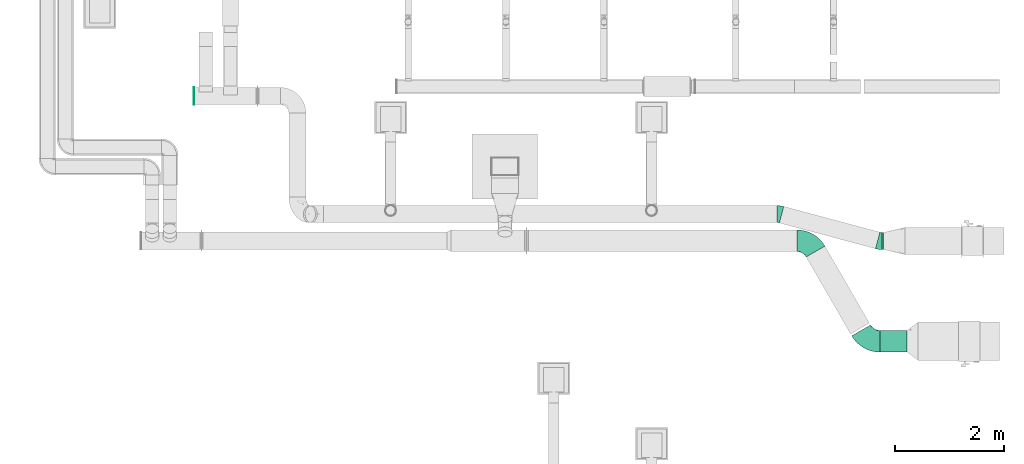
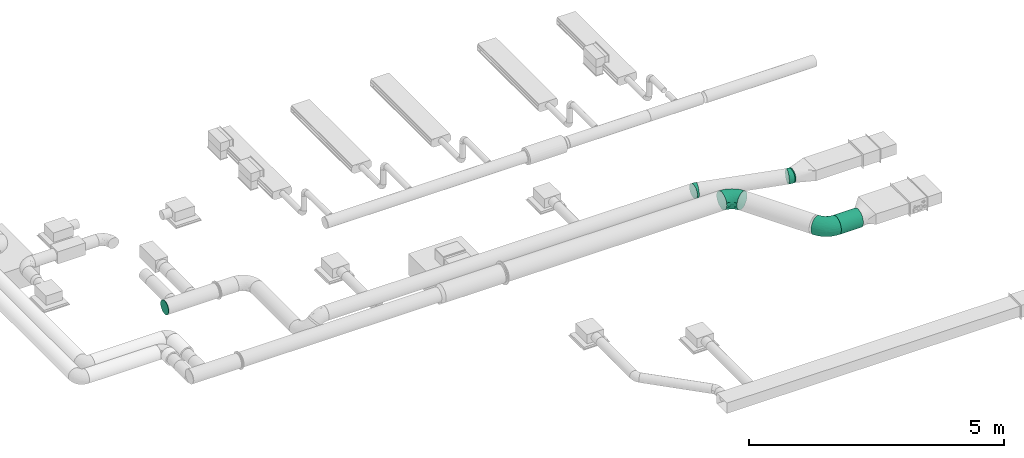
# One storey, part 18 of 36: 5 flow fittings, 2 flow segments.
"""IFC2X3 building model written with IfcOpenShell, lengths in millimetres."""

from ifc_helpers import new_model, entity, si_unit, converted_unit, derived_unit, direction, frame, origin_with_axes, origin_2d_with_axis, place, context, subcontext, project, spatial, hollow_circle, extrude, open_shell, surface_model, source, transform, mapped, type_object, element, save


model = new_model("IFC2X3")

# Units and contexts
model_context = context("Model", 3, precision=0.01, world=frame((0.0, 4.29681676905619e-09, 0.0)), true_north=direction((4.01073788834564e-13, 1.0)))
plan_context = context("Plan", 3, precision=0.01, world=frame((0.0, 4.29681676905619e-09, 0.0)), true_north=direction((4.01073788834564e-13, 1.0)))
body_context = subcontext(model_context, "Body", "Model", "MODEL_VIEW")
ifc_project = project(units=[converted_unit("PLANEANGLEUNIT", "DEGREE", entity("IfcPositiveLengthMeasure", 0.0174532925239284), si_unit("PLANEANGLEUNIT", "RADIAN"), dimensions=[0, 0, 0, 0, 0, 0, 0]), si_unit("AREAUNIT", "SQUARE_METRE"), si_unit("LENGTHUNIT", "METRE", prefix="MILLI"), si_unit("MASSUNIT", "GRAM", prefix="KILO"), si_unit("POWERUNIT", "WATT"), si_unit("PRESSUREUNIT", "PASCAL"), si_unit("FORCEUNIT", "NEWTON", prefix="KILO"), si_unit("ELECTRICCURRENTUNIT", "AMPERE"), si_unit("THERMODYNAMICTEMPERATUREUNIT", "DEGREE_CELSIUS"), si_unit("TIMEUNIT", "SECOND"), si_unit("VOLUMEUNIT", "CUBIC_METRE"), derived_unit("LINEARVELOCITYUNIT", [(si_unit("LENGTHUNIT", "METRE"), 1), (si_unit("TIMEUNIT", "SECOND"), -1)]), derived_unit("VOLUMETRICFLOWRATEUNIT", [(si_unit("VOLUMEUNIT", "CUBIC_METRE"), 1), (si_unit("TIMEUNIT", "SECOND"), -1)]), derived_unit("THERMALTRANSMITTANCEUNIT", [(si_unit("POWERUNIT", "WATT"), 1), (si_unit("THERMODYNAMICTEMPERATUREUNIT", "KELVIN"), -1), (si_unit("AREAUNIT", "SQUARE_METRE"), -1)])], contexts=[model_context, plan_context])

# Site, building, storey
site_placement = place(None, frame((0.0, -4.29681676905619e-09, 0.0), z_axis=(0.0, 0.0, 1.0), x_axis=(1.0, 0.0, 0.0)))
site = spatial("IfcSite", under=ifc_project, at=site_placement, CompositionType="ELEMENT")
building_placement = place(site_placement, frame((0.0, 4.29681676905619e-09, 0.0), z_axis=(0.0, 0.0, 1.0), x_axis=(1.0, 0.0, 0.0)))
building = spatial("IfcBuilding", under=site, at=building_placement, Name="mc-building", CompositionType="ELEMENT")
storey_placement = place(building_placement, frame((0.0, 0.0, 204000.0), z_axis=(0.0, 0.0, 1.0), x_axis=(1.0, 0.0, 0.0)))
storey = spatial("IfcBuildingStorey", under=building, at=storey_placement, Name="Nivå D", CompositionType="ELEMENT", Elevation=204000.0)

# Flow fittings
duct_fitting_type_1 = type_object("IfcDuctFittingType", Name="magicirc_elbow_full_radius_001", PredefinedType="BEND")
shared_shape_1 = source(origin_with_axes(), body_context, "Body", "SurfaceModel", [
    surface_model("IfcShellBasedSurfaceModel", [(-41.47054, 78.75, -136.39901), (-41.47054, 40.764, -152.13332), (-41.47054, 0.0, -157.5), (-41.47054, 136.39901, -78.75), (-41.47054, -40.764, -152.13332), (-41.47054, 111.36932, -111.36932), (-41.47054, -157.5, 0.0), (-41.47054, -152.13332, 40.764), (-41.47054, -111.36932, -111.36932), (-41.47054, -152.13332, -40.764), (-41.47054, -78.75, -136.39901), (-41.47054, -136.39901, -78.75), (-41.47054, 152.13332, -40.764), (-41.47054, 157.5, 0.0), (-41.47054, 152.13332, 40.764), (-41.47054, 136.39901, 78.75), (-41.47054, 111.36932, 111.36932), (-41.47054, 78.75, 136.39901), (-41.47054, 40.764, 152.13332), (-41.47054, -111.36932, 111.36932), (-41.47054, -78.75, 136.39901), (-41.47054, -136.39901, 78.75), (-41.47054, 0.0, 157.5), (-41.47054, -40.764, 152.13332), (40.05746, 10.73336, -157.5), (29.50696, 50.10836, -152.13332), (19.67546, 86.80003, -136.39901), (4.7548, 142.48468, -78.75), (50.60796, -28.64164, -152.13332), (11.23296, 118.30787, -111.36932), (79.43246, -136.21613, 40.764), (80.82147, -141.39995, 0.0), (68.88196, -96.84114, -111.36932), (60.43946, -65.33329, -136.39901), (79.43246, -136.21613, -40.764), (75.36012, -121.01795, -78.75), (0.68246, 157.68287, -40.764), (-0.70654, 162.86668, 0.0), (0.68246, 157.68287, 40.764), (68.88196, -96.84114, 111.36932), (11.23296, 118.30787, 111.36932), (4.7548, 142.48468, 78.75), (40.05746, 10.73336, 157.5), (19.67546, 86.80003, 136.39901), (29.50696, 50.10836, 152.13332), (75.36012, -121.01795, 78.75), (60.43946, -65.33329, 136.39901), (50.60796, -28.64164, 152.13332), (9.94765, -123.30004, 94.09097), (18.76918, -142.56619, 57.79057), (12.40228, -94.20471, 123.507), (1.28551, -152.77932, 29.41271), (2.5908, -19.67907, 155.87488), (7.77576, -59.06273, 144.65871), (-2.79647, 21.24129, 156.38517), (-8.01604, 60.88784, 146.15449), (43.13613, -147.7242, 25.66079), (20.20309, -153.45769, 0.0), (-20.91266, 158.84743, 0.0), (38.30049, -147.90621, -29.41271), (18.76919, -142.56618, -57.79057), (22.30371, -121.67334, -94.09096), (-2.79647, 21.24128, -156.38517), (2.5908, -19.67907, -155.87488), (-8.01605, 60.88783, -146.15449), (7.77576, -59.06273, -144.65871), (12.40229, -94.20471, -123.507), (-3.43246, -153.85505, -25.66079)], [open_shell([[[0, 1, 2]], [[3, 0, 2]], [[4, 3, 2]], [[5, 0, 3]], [[3, 6, 7]], [[8, 9, 10]], [[4, 10, 6]], [[11, 9, 8]], [[6, 10, 9]], [[6, 3, 4]], [[7, 12, 3]], [[13, 7, 14]], [[15, 14, 16]], [[17, 16, 7]], [[7, 16, 14]], [[7, 18, 17]], [[19, 20, 21]], [[7, 21, 22]], [[23, 22, 20]], [[21, 20, 22]], [[22, 18, 7]], [[12, 7, 13]], [[24, 25, 26]], [[24, 26, 27]], [[24, 27, 28]], [[27, 26, 29]], [[30, 31, 27]], [[28, 32, 33]], [[32, 28, 34]], [[32, 34, 35]], [[34, 28, 31]], [[28, 27, 31]], [[27, 36, 37]], [[38, 39, 37]], [[40, 38, 41]], [[42, 40, 43]], [[38, 40, 39]], [[43, 44, 42]], [[37, 39, 45]], [[45, 30, 37]], [[46, 42, 47]], [[42, 46, 39]], [[42, 39, 40]], [[37, 30, 27]], [[19, 21, 48]], [[21, 7, 49]], [[48, 50, 19]], [[51, 49, 7]], [[21, 49, 48]], [[22, 23, 52]], [[53, 52, 23]], [[54, 18, 22]], [[20, 53, 23]], [[50, 53, 20]], [[20, 19, 50]], [[17, 55, 43]], [[15, 16, 41]], [[17, 40, 16]], [[56, 51, 57]], [[6, 51, 7]], [[49, 56, 30]], [[58, 14, 38]], [[47, 42, 52]], [[58, 13, 14]], [[38, 14, 15]], [[17, 18, 55]], [[31, 56, 57]], [[6, 57, 51]], [[54, 55, 18]], [[52, 53, 47]], [[46, 53, 50]], [[46, 47, 53]], [[54, 52, 42]], [[39, 46, 50]], [[30, 56, 31]], [[30, 45, 49]], [[45, 39, 48]], [[45, 48, 49]], [[39, 50, 48]], [[42, 44, 54]], [[52, 54, 22]], [[41, 38, 15]], [[37, 58, 38]], [[43, 55, 44]], [[17, 43, 40]], [[41, 16, 40]], [[54, 44, 55]], [[49, 51, 56]], [[59, 60, 34]], [[32, 35, 61]], [[62, 2, 1]], [[63, 4, 2]], [[27, 5, 3]], [[0, 64, 1]], [[5, 29, 0]], [[11, 61, 60]], [[64, 0, 26]], [[65, 63, 28]], [[66, 65, 33]], [[12, 36, 3]], [[6, 9, 67]], [[60, 59, 67]], [[66, 8, 10]], [[63, 62, 24]], [[9, 11, 60]], [[11, 8, 61]], [[65, 10, 4]], [[67, 59, 57]], [[60, 67, 9]], [[12, 13, 58]], [[58, 37, 36]], [[62, 64, 25]], [[36, 27, 3]], [[26, 0, 29]], [[35, 60, 61]], [[25, 64, 26]], [[8, 66, 61]], [[66, 10, 65]], [[5, 27, 29]], [[63, 2, 62]], [[24, 62, 25]], [[65, 28, 33]], [[65, 4, 63]], [[62, 1, 64]], [[66, 33, 32]], [[35, 34, 60]], [[6, 67, 57]], [[31, 57, 59]], [[32, 61, 66]], [[31, 59, 34]], [[28, 63, 24]], [[12, 58, 36]]])]),
])
for number, where, z_axis, x_axis, name in (
    (1, (528049.21691, 414221.8494, 2930.0), (0.0, 0.0, 1.0), (-0.965925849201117, 0.258818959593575, 0.0), "magicirc_elbow_full_radius_001"),
    (2, (529896.02002, 413727.0, 2930.0), (0.0, 0.0, 1.0), (0.965925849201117, -0.258818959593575, 0.0), "magicirc_elbow_full_radius_001"),
):
    element("IfcFlowFitting", number, at=place(storey_placement, frame(where, z_axis=z_axis, x_axis=x_axis)), inside=storey, type_object=duct_fitting_type_1, Name=name, context=body_context, shape_type="MappedRepresentation", body=[
        mapped(shared_shape_1, transform((0.0, 0.0, 0.0), scale=1.0)),
    ])
shared_shape_2 = source(origin_with_axes(), body_context, "Body", "SurfaceModel", [
    surface_model("IfcShellBasedSurfaceModel", [(-230.9401, 113.61295, -164.59677), (-230.9401, 70.92098, -187.00325), (-230.9401, 24.10734, -198.54177), (-230.9401, -70.92098, -187.00325), (-230.9401, 194.18836, -47.86313), (-230.9401, 177.09121, -92.94464), (-230.9401, 149.70215, -132.62454), (-230.9401, -113.61295, 164.59677), (-230.9401, -113.61295, -164.59677), (-230.9401, -177.09121, -92.94464), (-230.9401, -24.10734, -198.54177), (-230.9401, -149.70215, -132.62454), (-230.9401, -194.18836, -47.86313), (-230.9401, -200.0, 0.0), (-230.9401, -149.70215, 132.62454), (-230.9401, 200.0, 0.0), (-230.9401, 177.09121, 92.94464), (-230.9401, 194.18836, 47.86313), (-230.9401, 149.70215, 132.62454), (-230.9401, 70.92098, 187.00325), (-230.9401, 113.61295, 164.59677), (-230.9401, -177.09121, 92.94464), (-230.9401, -194.18836, 47.86313), (-230.9401, -70.92098, 187.00325), (-230.9401, -24.10734, 198.54177), (-230.9401, 24.10734, 198.54177), (94.59249, 212.05366, -198.54177), (54.05068, 235.46048, -187.00325), (17.07835, 256.80647, -164.59677), (136.34762, 187.94634, -198.54177), (-14.17581, 274.85108, -132.62454), (-37.89543, 288.5456, -92.94464), (-52.702, 297.09418, -47.86313), (176.88942, 164.5395, -187.00325), (245.11593, 125.14893, 132.62454), (245.11593, 125.14893, -132.62454), (213.86175, 143.19352, -164.59677), (268.83553, 111.4544, -92.94464), (283.64212, 102.90582, -47.86313), (288.67513, 100.0, 0.0), (-52.702, 297.09418, 47.86313), (-14.17581, 274.85108, 132.62454), (-37.89543, 288.5456, 92.94464), (17.07835, 256.80647, 164.59677), (54.05068, 235.46048, 187.00325), (94.59249, 212.05366, 198.54177), (283.64212, 102.90582, 47.86313), (268.83553, 111.4544, 92.94464), (176.88942, 164.5395, 187.00325), (136.34762, 187.94634, 198.54177), (213.86175, 143.19352, 164.59677), (-57.73503, 300.0, 0.0), (-193.22383, 186.60988, 80.00148), (-152.62439, -194.86692, 0.0), (-15.52585, 62.67653, 199.99986), (-79.29232, 41.43833, 199.71419), (-44.64256, 14.72196, 198.03659), (-167.01942, -138.38603, 140.67146), (-118.10751, -146.15494, 123.02175), (-140.16128, -101.04159, 167.55778), (-191.26274, -167.72347, 106.78199), (-168.83208, -187.98509, 58.48996), (-140.184, -167.34567, 97.61781), (80.71698, -57.40563, 128.22299), (51.60024, -97.27173, 102.17035), (96.13645, -73.63693, 95.73905), (1.12124, -147.63788, 45.40823), (49.24601, -126.02938, 39.81944), (24.22733, -125.46545, 78.04448), (164.30531, -37.95071, 62.6565), (142.95042, -37.6956, 95.64253), (101.27293, -93.72451, 44.05428), (-191.48488, -98.55509, 173.13929), (-97.13988, -61.23759, 183.19254), (-103.55021, -8.55893, 198.03615), (-169.08154, -56.33606, 190.62683), (-176.9477, -8.3391, 199.64606), (133.32923, 118.26088, 190.62683), (-87.40288, -160.29743, 90.42485), (-106.51027, -179.41131, 53.8234), (-48.62769, -161.98261, 59.91384), (-159.24809, 38.72072, 197.47563), (-126.7091, 73.8349, 191.53048), (-85.70773, 226.63195, 98.89438), (-64.99699, 260.64169, 80.00148), (-96.15457, 239.4473, 61.30969), (-195.03604, 128.00762, 155.60382), (45.84174, 156.808, 197.49476), (157.58522, 70.86243, 167.55778), (101.613, 53.51463, 183.19207), (-159.29017, 202.99595, 61.30969), (15.28603, 198.24887, 182.56288), (-189.35777, 204.37048, 0.0), (-123.47754, 213.86936, 75.81093), (-114.44974, 198.23274, 110.02077), (179.58611, -3.59768, 95.56065), (149.23272, -5.35965, 125.47831), (-149.59278, 217.29092, 0.0), (35.95176, -78.53292, 134.60061), (18.06592, -31.29113, 174.33769), (-33.596, -74.90648, 164.1364), (-179.45442, 85.89366, 182.55074), (-178.8147, 162.08825, 124.59926), (-75.64868, -179.5555, 0.0), (-1.33005, -154.32772, 0.0), (-150.31693, 128.27938, 162.51548), (-14.76549, 134.99807, 191.40243), (20.71498, 108.56205, 199.44073), (184.12746, 30.03578, 125.13504), (240.88415, 81.77666, 106.78198), (203.35552, 75.45005, 140.67146), (215.0176, 37.73007, 97.6178), (247.21591, 52.22034, 58.48996), (95.69572, 149.07166, 199.64606), (193.32396, -24.26407, 0.0), (134.31675, -76.012, 0.0), (181.09365, 116.55322, 173.13929), (56.09427, 13.76888, 182.77009), (125.10059, 21.69245, 160.37282), (69.05989, -119.61525, 0.0), (245.07191, 34.74314, 0.0), (-43.24189, -26.18268, 188.90609), (-80.98984, 201.55619, 130.82974), (-113.10427, 162.10597, 147.99993), (208.44725, 2.25875, 53.64461), (-113.38306, 238.1966, 0.0), (-82.31115, 266.17389, 0.0), (-58.41314, 135.23607, 181.51178), (-103.48927, 127.31539, 173.77822), (-129.24771, 223.86359, 36.63964), (-40.24062, -143.87161, 94.37047), (-53.66215, 231.80809, 125.61392), (-44.18794, 182.87338, 164.60015), (-16.87062, 225.94567, 156.84106), (58.42929, 84.30537, 197.99484), (-153.41516, 187.54104, 98.89438), (-69.97478, -131.91915, 125.47832), (-78.0173, 94.59726, 191.2683), (-83.82701, -96.57839, 161.54526), (3.45843, 14.81472, 193.41468), (87.11475, -22.33226, 153.08942), (33.86492, -136.97148, 0.0), (-11.80412, -112.28476, 123.66307), (-151.82179, 38.5495, -197.73846), (-177.56849, 85.78626, -182.73652), (-99.08811, 90.36387, -189.6652), (-197.08472, 41.81979, -195.91346), (-172.13475, -8.73847, -199.5805), (-200.1761, 128.39827, -154.78003), (-159.36894, 127.69869, -161.1509), (-181.55709, 161.96539, -124.0298), (5.0001, -107.02522, -121.01496), (25.35381, -127.18741, -73.04146), (-57.1749, -150.2267, -93.09389), (-130.49742, 162.10664, -141.07039), (-159.29017, 202.99595, -61.30968), (-53.66216, 231.80809, -125.61391), (-123.47754, 213.86936, -75.81093), (-129.24771, 223.86359, -36.63964), (-96.15457, 239.4473, -61.30968), (-193.22383, 186.60988, -80.00148), (23.54222, 120.19406, -198.81087), (10.6034, 189.23371, -183.55113), (54.64188, 174.25397, -196.73894), (91.17933, -39.37728, -137.95393), (73.18482, -4.13625, -169.73395), (121.36988, 10.01698, -155.67818), (-6.08571, 10.54073, -193.72411), (-2.33398, 65.39146, -199.9312), (46.68336, 46.24601, -193.7302), (-102.27071, -1.78449, -198.79906), (-106.27052, -56.38799, -186.15857), (-154.3358, -100.88911, -169.15178), (-170.82985, -138.26713, -141.22935), (-48.35707, -162.26955, -58.76652), (-188.1167, -167.84295, -106.23024), (-167.12995, -187.90975, -58.14115), (205.16735, 78.82741, -141.23232), (-65.32218, -91.61657, -160.91954), (-113.66459, -126.5873, -143.32825), (-36.65099, 103.64827, -194.72338), (-61.35916, 46.48571, -199.84329), (13.04084, -144.33867, -37.16821), (58.24811, -120.88564, -40.87655), (-12.90897, -83.57585, -151.59593), (-36.93983, -43.04549, -181.66253), (19.4541, -25.48455, -176.69556), (-105.35632, -179.60768, -52.24062), (-173.23581, -56.82252, -190.6449), (-153.41516, 187.54104, -98.89438), (-99.27859, -149.0946, -113.52294), (-86.38783, 181.87442, -144.45195), (-44.18795, 182.87338, -164.60015), (-85.70774, 226.63195, -98.89438), (-64.99699, 260.64169, -80.00148), (164.58379, 83.29383, -169.16184), (246.29959, 50.78391, -58.14115), (208.01808, 1.1228, -52.01896), (211.97879, 33.13728, -96.60361), (-16.87062, 225.94567, -156.84106), (134.96037, 121.62602, -190.86453), (102.09115, 64.02206, -186.17581), (87.68293, 132.75347, -199.36999), (99.88359, -90.5508, -57.08802), (164.41691, -38.30225, -61.62934), (-105.79788, 36.09657, -199.42307), (158.8746, -24.41245, -94.50196), (166.44693, 35.16223, -143.35051), (-78.05866, 138.56637, -174.82154), (36.67418, 83.60189, -199.48112), (239.41462, 78.99236, -106.23024), (-117.62957, 122.27248, -173.17798), (64.92005, -87.64637, -104.74252), (36.84817, -63.82292, -147.03398), (111.73104, -56.99713, -103.39452), (-36.68312, 145.33016, -183.43395), (-57.8211, -129.80641, -123.42462), (-134.68713, -167.01037, -96.60361), (141.32619, -14.82867, -123.42462), (178.76249, 11.4575, -113.54624), (-53.81295, 6.96799, -197.56699), (-114.44974, 198.23274, -110.02077)], [open_shell([[[0, 1, 2]], [[0, 2, 3]], [[4, 5, 6]], [[0, 3, 7]], [[7, 6, 0]], [[8, 9, 3]], [[2, 10, 3]], [[9, 8, 11]], [[9, 12, 13]], [[13, 14, 9]], [[7, 3, 9]], [[15, 4, 6]], [[16, 17, 15]], [[18, 16, 15]], [[19, 20, 18]], [[7, 18, 6]], [[19, 18, 7]], [[13, 21, 14]], [[21, 13, 22]], [[23, 24, 25]], [[25, 7, 23]], [[7, 9, 14]], [[25, 19, 7]], [[18, 15, 6]], [[26, 27, 28]], [[29, 26, 28]], [[30, 31, 32]], [[30, 32, 28]], [[33, 28, 34]], [[33, 35, 36]], [[33, 29, 28]], [[37, 35, 38]], [[39, 38, 35]], [[35, 33, 34]], [[34, 39, 35]], [[28, 32, 40]], [[28, 40, 41]], [[41, 40, 42]], [[34, 41, 43]], [[28, 41, 34]], [[44, 45, 43]], [[46, 34, 47]], [[39, 34, 46]], [[48, 34, 49]], [[50, 34, 48]], [[49, 34, 45]], [[43, 45, 34]], [[32, 51, 40]], [[52, 17, 16]], [[22, 13, 53]], [[54, 55, 56]], [[57, 58, 59]], [[60, 61, 62]], [[63, 64, 65]], [[66, 67, 68]], [[69, 70, 71]], [[72, 57, 59]], [[73, 74, 75]], [[23, 7, 72]], [[75, 76, 24]], [[77, 48, 49]], [[78, 79, 80]], [[81, 55, 82]], [[57, 7, 14]], [[14, 21, 60]], [[25, 81, 19]], [[83, 84, 85]], [[20, 86, 18]], [[40, 85, 84]], [[87, 45, 44]], [[24, 76, 25]], [[23, 75, 24]], [[88, 77, 89]], [[17, 52, 90]], [[91, 44, 43]], [[92, 15, 17]], [[83, 93, 94]], [[95, 96, 70]], [[92, 90, 97]], [[98, 99, 100]], [[20, 19, 101]], [[102, 18, 86]], [[103, 104, 80]], [[82, 105, 101]], [[87, 106, 107]], [[92, 17, 90]], [[96, 95, 108]], [[23, 72, 75]], [[109, 47, 34]], [[109, 110, 111]], [[47, 112, 46]], [[77, 49, 113]], [[114, 69, 115]], [[112, 47, 109]], [[101, 19, 81]], [[50, 48, 116]], [[110, 34, 50]], [[117, 118, 89]], [[119, 115, 71]], [[120, 39, 46]], [[100, 99, 121]], [[122, 94, 123]], [[124, 120, 112]], [[125, 85, 126]], [[127, 123, 128]], [[125, 97, 129]], [[51, 126, 40]], [[21, 22, 61]], [[87, 91, 106]], [[93, 129, 90]], [[66, 68, 130]], [[44, 91, 87]], [[131, 132, 133]], [[42, 131, 41]], [[40, 126, 85]], [[18, 102, 16]], [[87, 107, 134]], [[43, 41, 133]], [[113, 134, 77]], [[61, 79, 62]], [[122, 131, 83]], [[116, 77, 88]], [[123, 102, 105]], [[84, 42, 40]], [[135, 90, 52]], [[124, 112, 111]], [[69, 95, 70]], [[60, 57, 14]], [[58, 57, 62]], [[73, 75, 59]], [[76, 74, 81]], [[22, 53, 61]], [[79, 53, 103]], [[49, 45, 113]], [[89, 77, 134]], [[116, 110, 50]], [[88, 118, 108]], [[95, 124, 111]], [[120, 46, 112]], [[136, 78, 130]], [[136, 58, 78]], [[133, 91, 43]], [[106, 91, 132]], [[137, 127, 128]], [[106, 137, 54]], [[82, 101, 81]], [[86, 101, 105]], [[73, 138, 100]], [[121, 74, 73]], [[117, 134, 139]], [[140, 99, 98]], [[140, 98, 63]], [[141, 67, 66]], [[74, 76, 75]], [[81, 25, 76]], [[45, 87, 113]], [[134, 113, 87]], [[82, 55, 137]], [[121, 139, 56]], [[131, 133, 41]], [[91, 133, 132]], [[100, 121, 73]], [[121, 99, 139]], [[138, 73, 59]], [[136, 130, 142]], [[138, 142, 100]], [[63, 96, 140]], [[89, 118, 88]], [[140, 118, 117]], [[117, 139, 99]], [[134, 54, 139]], [[140, 117, 99]], [[134, 117, 89]], [[69, 114, 124]], [[120, 124, 114]], [[53, 79, 61]], [[103, 80, 79]], [[55, 81, 74]], [[82, 137, 128]], [[56, 74, 121]], [[54, 137, 55]], [[85, 93, 83]], [[131, 42, 84]], [[122, 83, 94]], [[131, 84, 83]], [[135, 123, 94]], [[132, 131, 122]], [[128, 123, 105]], [[132, 122, 123]], [[16, 102, 52]], [[135, 94, 93]], [[52, 102, 135]], [[123, 135, 102]], [[82, 128, 105]], [[137, 106, 127]], [[106, 132, 127]], [[123, 127, 132]], [[101, 86, 20]], [[102, 86, 105]], [[69, 71, 115]], [[71, 65, 64]], [[140, 96, 118]], [[108, 118, 96]], [[54, 56, 139]], [[74, 56, 55]], [[85, 125, 129]], [[135, 93, 90]], [[90, 129, 97]], [[85, 129, 93]], [[57, 72, 7]], [[75, 72, 59]], [[61, 60, 21]], [[57, 60, 62]], [[77, 116, 48]], [[110, 116, 88]], [[110, 109, 34]], [[112, 109, 111]], [[67, 71, 64]], [[119, 71, 67]], [[141, 119, 67]], [[80, 104, 66]], [[141, 66, 104]], [[124, 95, 69]], [[108, 111, 110]], [[63, 70, 96]], [[71, 70, 65]], [[111, 108, 95]], [[88, 108, 110]], [[78, 58, 62]], [[58, 136, 138]], [[79, 78, 62]], [[78, 80, 130]], [[66, 130, 80]], [[68, 64, 142]], [[68, 142, 130]], [[100, 142, 98]], [[106, 54, 107]], [[54, 134, 107]], [[58, 138, 59]], [[142, 138, 136]], [[142, 64, 98]], [[64, 68, 67]], [[64, 63, 98]], [[63, 65, 70]], [[143, 144, 145]], [[2, 146, 147]], [[148, 144, 0]], [[149, 148, 150]], [[0, 144, 1]], [[151, 152, 153]], [[15, 92, 4]], [[149, 150, 154]], [[97, 155, 92]], [[30, 156, 31]], [[157, 158, 159]], [[4, 155, 160]], [[161, 162, 163]], [[164, 165, 166]], [[167, 168, 169]], [[147, 170, 171]], [[8, 172, 173]], [[153, 152, 174]], [[175, 176, 9]], [[36, 35, 177]], [[172, 178, 179]], [[13, 12, 53]], [[173, 11, 8]], [[180, 181, 145]], [[141, 182, 183]], [[184, 185, 186]], [[2, 147, 10]], [[176, 12, 9]], [[175, 9, 11]], [[187, 53, 176]], [[2, 1, 146]], [[188, 172, 3]], [[189, 160, 155]], [[190, 173, 179]], [[158, 97, 125]], [[191, 156, 192]], [[157, 159, 193]], [[194, 32, 31]], [[32, 194, 159]], [[195, 33, 36]], [[148, 0, 6]], [[32, 126, 51]], [[196, 197, 198]], [[199, 30, 28]], [[192, 199, 162]], [[147, 188, 10]], [[200, 201, 202]], [[30, 199, 156]], [[202, 29, 200]], [[200, 29, 33]], [[203, 204, 115]], [[162, 27, 163]], [[126, 32, 159]], [[202, 26, 29]], [[115, 204, 114]], [[141, 104, 182]], [[3, 172, 8]], [[170, 143, 205]], [[197, 204, 206]], [[4, 92, 155]], [[177, 195, 36]], [[174, 104, 103]], [[177, 207, 195]], [[208, 180, 145]], [[39, 120, 38]], [[150, 6, 5]], [[209, 201, 169]], [[196, 198, 210]], [[37, 38, 196]], [[35, 37, 210]], [[211, 154, 208]], [[162, 28, 27]], [[212, 151, 213]], [[126, 159, 125]], [[204, 203, 214]], [[201, 195, 166]], [[193, 159, 194]], [[27, 26, 163]], [[215, 161, 180]], [[178, 216, 179]], [[169, 165, 186]], [[153, 217, 190]], [[53, 12, 176]], [[38, 120, 196]], [[197, 120, 114]], [[170, 147, 143]], [[188, 171, 172]], [[144, 149, 211]], [[146, 144, 143]], [[160, 5, 4]], [[150, 189, 154]], [[115, 119, 203]], [[206, 218, 219]], [[205, 145, 181]], [[170, 220, 185]], [[179, 173, 172]], [[175, 173, 217]], [[33, 195, 200]], [[201, 200, 195]], [[210, 177, 35]], [[207, 219, 218]], [[217, 187, 176]], [[153, 187, 217]], [[26, 202, 163]], [[161, 163, 202]], [[119, 141, 183]], [[213, 164, 212]], [[162, 199, 28]], [[156, 199, 192]], [[221, 191, 154]], [[191, 208, 154]], [[191, 221, 193]], [[208, 191, 192]], [[215, 180, 208]], [[208, 145, 211]], [[215, 208, 192]], [[168, 180, 161]], [[168, 181, 180]], [[170, 205, 220]], [[120, 197, 196]], [[114, 204, 197]], [[209, 169, 168]], [[181, 168, 167]], [[209, 168, 161]], [[165, 169, 201]], [[195, 207, 166]], [[184, 186, 213]], [[178, 172, 171]], [[190, 179, 216]], [[185, 178, 171]], [[151, 184, 213]], [[170, 185, 171]], [[185, 167, 186]], [[219, 177, 198]], [[166, 207, 218]], [[164, 166, 218]], [[201, 166, 165]], [[164, 214, 212]], [[165, 164, 213]], [[214, 164, 218]], [[203, 152, 212]], [[152, 151, 212]], [[184, 216, 178]], [[214, 218, 206]], [[203, 212, 214]], [[174, 103, 187]], [[53, 187, 103]], [[155, 157, 189]], [[150, 5, 160]], [[154, 189, 221]], [[150, 160, 189]], [[31, 156, 194]], [[193, 221, 157]], [[194, 156, 193]], [[191, 193, 156]], [[169, 186, 167]], [[213, 186, 165]], [[153, 190, 216]], [[173, 190, 217]], [[153, 216, 151]], [[187, 153, 174]], [[177, 219, 207]], [[198, 197, 206]], [[198, 206, 219]], [[214, 206, 204]], [[173, 175, 11]], [[176, 175, 217]], [[196, 210, 37]], [[177, 210, 198]], [[10, 188, 3]], [[171, 188, 147]], [[216, 184, 151]], [[185, 184, 178]], [[189, 157, 221]], [[158, 155, 97]], [[159, 158, 125]], [[155, 158, 157]], [[144, 146, 1]], [[147, 146, 143]], [[150, 148, 6]], [[144, 148, 149]], [[182, 174, 152]], [[174, 182, 104]], [[182, 152, 183]], [[152, 203, 183]], [[203, 119, 183]], [[144, 211, 145]], [[154, 211, 149]], [[192, 162, 215]], [[161, 215, 162]], [[145, 205, 143]], [[220, 205, 181]], [[181, 167, 220]], [[185, 220, 167]], [[161, 202, 209]], [[201, 209, 202]]])]),
])
for number, where, z_axis, x_axis, name in (
    (3, (529666.20251, 411882.76875, 2877.5), (0.0, 0.0, 1.0), (0.500000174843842, -0.866025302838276, 0.0), "magicirc_elbow_full_radius_001"),
    (4, (528598.10451, 413732.76875, 2877.5), (0.0, 0.0, 1.0), (-0.500000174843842, 0.866025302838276, 0.0), "magicirc_elbow_full_radius_001"),
):
    element("IfcFlowFitting", number, at=place(storey_placement, frame(where, z_axis=z_axis, x_axis=x_axis)), inside=storey, type_object=duct_fitting_type_1, Name=name, context=body_context, shape_type="MappedRepresentation", body=[
        mapped(shared_shape_2, transform((0.0, 0.0, 0.0), scale=1.0)),
    ])
duct_fitting_type_2 = type_object("IfcDuctFittingType", Name="magicirc_plug_001", PredefinedType="OBSTRUCTION")
shared_shape_3 = source(origin_with_axes(), body_context, "Body", "SurfaceModel", [
    surface_model("IfcShellBasedSurfaceModel", [(0.0, 40.764, -152.13332), (0.0, 0.0, -157.5), (0.0, 152.13332, -40.764), (0.0, 78.75, -136.39901), (0.0, 136.39901, -78.75), (0.0, 111.36932, -111.36932), (0.0, -157.5, 0.0), (0.0, -78.75, -136.39901), (0.0, -111.36932, -111.36932), (0.0, -40.764, -152.13332), (0.0, -152.13332, -40.764), (0.0, -136.39901, -78.75), (0.0, -111.36932, 111.36932), (0.0, 136.39901, 78.75), (0.0, 152.13332, 40.764), (0.0, 157.5, 0.0), (0.0, 40.764, 152.13332), (0.0, 78.75, 136.39901), (0.0, 111.36932, 111.36932), (0.0, 0.0, 157.5), (0.0, -152.13332, 40.764), (0.0, -136.39901, 78.75), (0.0, -78.75, 136.39901), (0.0, -40.764, 152.13332), (10.0, 152.13332, -40.764), (10.0, 0.0, -157.5), (10.0, 40.764, -152.13332), (10.0, 78.75, -136.39901), (10.0, 111.36932, -111.36932), (10.0, 136.39901, -78.75), (10.0, -40.764, -152.13332), (10.0, -111.36932, -111.36932), (10.0, -78.75, -136.39901), (10.0, -152.13332, -40.764), (10.0, -136.39901, -78.75), (10.0, -157.5, 0.0), (10.0, 136.39901, 78.75), (10.0, 157.5, 0.0), (10.0, 152.13332, 40.764), (10.0, -111.36932, 111.36932), (10.0, 78.75, 136.39901), (10.0, 40.764, 152.13332), (10.0, 111.36932, 111.36932), (10.0, 0.0, 157.5), (10.0, -136.39901, 78.75), (10.0, -152.13332, 40.764), (10.0, -40.764, 152.13332), (10.0, -78.75, 136.39901)], [open_shell([[[0, 1, 2]], [[3, 0, 2]], [[2, 4, 5]], [[3, 2, 5]], [[6, 2, 1]], [[7, 8, 9]], [[10, 9, 8]], [[11, 10, 8]], [[6, 9, 10]], [[6, 1, 9]], [[6, 12, 2]], [[13, 14, 15]], [[12, 13, 2]], [[13, 16, 17]], [[18, 13, 17]], [[16, 13, 19]], [[20, 21, 6]], [[6, 21, 12]], [[22, 23, 12]], [[23, 13, 12]], [[13, 23, 19]], [[13, 15, 2]], [[24, 25, 26]], [[24, 26, 27]], [[28, 29, 24]], [[28, 24, 27]], [[25, 24, 30]], [[30, 31, 32]], [[31, 30, 33]], [[31, 33, 34]], [[33, 30, 35]], [[30, 24, 35]], [[24, 36, 35]], [[37, 38, 36]], [[36, 39, 35]], [[40, 41, 36]], [[40, 36, 42]], [[43, 36, 41]], [[35, 44, 45]], [[39, 44, 35]], [[39, 46, 47]], [[39, 36, 46]], [[43, 46, 36]], [[36, 24, 37]], [[45, 6, 35]], [[44, 20, 45]], [[12, 39, 47]], [[44, 39, 21]], [[22, 47, 46]], [[44, 21, 20]], [[20, 6, 45]], [[23, 43, 19]], [[23, 22, 46]], [[12, 47, 22]], [[12, 21, 39]], [[43, 23, 46]], [[40, 16, 41]], [[42, 17, 40]], [[13, 36, 38]], [[42, 36, 18]], [[14, 38, 37]], [[40, 17, 16]], [[16, 19, 41]], [[14, 13, 38]], [[18, 36, 13]], [[18, 17, 42]], [[15, 14, 37]], [[41, 19, 43]], [[24, 15, 37]], [[29, 2, 24]], [[5, 28, 27]], [[29, 28, 4]], [[3, 27, 26]], [[29, 4, 2]], [[2, 15, 24]], [[0, 25, 1]], [[0, 3, 26]], [[5, 27, 3]], [[5, 4, 28]], [[25, 0, 26]], [[32, 31, 7]], [[30, 32, 9]], [[10, 34, 33]], [[34, 11, 31]], [[6, 33, 35]], [[30, 9, 1]], [[9, 32, 7]], [[8, 31, 11]], [[8, 7, 31]], [[11, 34, 10]], [[33, 6, 10]], [[30, 1, 25]]])]),
])
flow_fitting_placement = place(storey_placement, frame((517280.55848, 416394.68824, 2584.12929000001), z_axis=(0.0, 0.0, 1.0), x_axis=(-1.0, 0.0, 0.0)))
element("IfcFlowFitting", 5, at=flow_fitting_placement, inside=storey, type_object=duct_fitting_type_2, Name="magicirc_plug_001", context=body_context, shape_type="MappedRepresentation", body=[
    mapped(shared_shape_3, transform((0.0, 0.0, 0.0), scale=1.0)),
])

# Flow segments
duct_segment_type = type_object("IfcDuctSegmentType", Name="KK001T - Spiro kanaler, Forsinket stål", PredefinedType="RIGIDSEGMENT")
shared_shape_4 = source(origin_with_axes(), body_context, "Body", "SweptSolid", [
    extrude(hollow_circle(Radius=200.0, WallThickness=2.0, at=origin_2d_with_axis()), frame((0.0, 0.0, 0.0), z_axis=(1.0, 0.0, 0.0), x_axis=(0.0, 1.0, 0.0)), (0.0, 0.0, 1.0), 500.2),
])
flow_segment_1_placement = place(storey_placement, frame((530397.33499, 411882.76875, 2877.5), z_axis=(0.0, 0.0, 1.0), x_axis=(-1.0, 0.0, 0.0)))
element("IfcFlowSegment", 6, at=flow_segment_1_placement, inside=storey, type_object=duct_segment_type, Name="KK001T - Spiro kanaler, Forsinket stål", context=body_context, shape_type="MappedRepresentation", body=[
    mapped(shared_shape_4, transform((0.0, 0.0, 0.0), scale=1.0)),
])
shared_shape_5 = source(origin_with_axes(), body_context, "Body", "SweptSolid", [
    extrude(hollow_circle(Radius=157.5, WallThickness=2.0, at=origin_2d_with_axis()), frame((0.0, 0.0, 0.0), z_axis=(1.0, 0.0, 0.0), x_axis=(0.0, 1.0, 0.0)), (0.0, 0.0, 1.0), 23.1),
])
flow_segment_2_placement = place(storey_placement, frame((529937.49056, 413727.0, 2930.0), z_axis=(0.0, 0.0, 1.0), x_axis=(1.0, 0.0, 0.0)))
element("IfcFlowSegment", 7, at=flow_segment_2_placement, inside=storey, type_object=duct_segment_type, Name="KK001T - Spiro kanaler, Forsinket stål", context=body_context, shape_type="MappedRepresentation", body=[
    mapped(shared_shape_5, transform((0.0, 0.0, 0.0), scale=1.0)),
])

save(model, "model.ifc")
